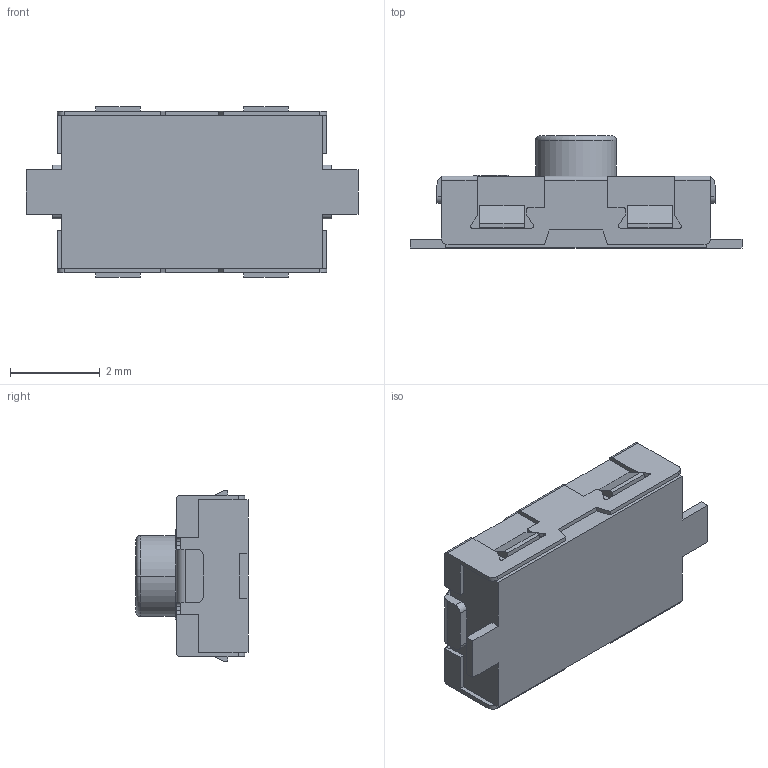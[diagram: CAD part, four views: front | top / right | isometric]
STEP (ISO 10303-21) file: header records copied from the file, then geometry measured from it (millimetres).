
FILE_DESCRIPTION((''),'2;1');
FILE_NAME('ASM0006_ASM','2024-01-11T',('WYH'),(''),'PRO/ENGINEER BY PARAMETRIC TECHNOLOGY CORPORATION, 2013040','PRO/ENGINEER BY PARAMETRIC TECHNOLOGY CORPORATION, 2013040','');
FILE_SCHEMA(('CONFIG_CONTROL_DESIGN'));
Length unit declared in the file: millimetre
Products named in the file (1): ASM0006_ASM
Bounding box: 7.4 x 2.5 x 3.8 mm (x, y, z)
Volume: 35.9 mm3; surface area: 86.2 mm2
Topology: 1 solids, 1 shells, 220 faces, 610 edges, 402 vertices
Faces by surface type: plane 166, cylinder 52, torus 2
Entity records: 7039 total; most frequent: CARTESIAN_POINT 1251, ORIENTED_EDGE 1220, DIRECTION 1174, EDGE_CURVE 610, VECTOR 478, LINE 478, VERTEX_POINT 402, AXIS2_PLACEMENT_3D 348
